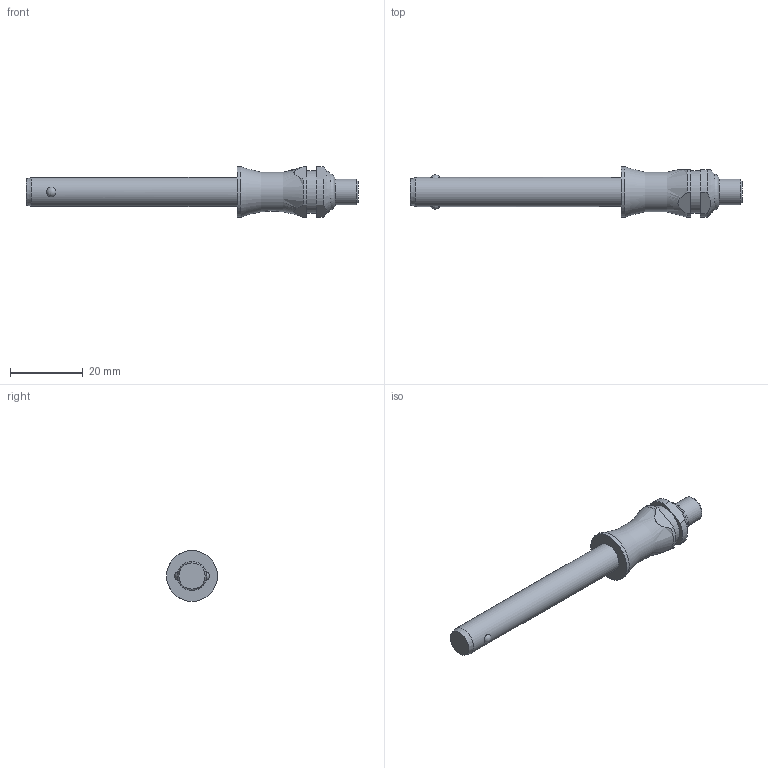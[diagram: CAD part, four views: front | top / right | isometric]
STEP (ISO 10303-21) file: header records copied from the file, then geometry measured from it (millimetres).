
FILE_DESCRIPTION( ( 'STEP AP203' ), '1' );
FILE_NAME( 'C:/Temp/Ganter_Step_05_03_2020/data/3_1/gn113_3/Stainless Steel-Ball lock pin GN 113.3-8-50 (deactivated).stp', '2020-03-12T08:18:26', ( 'License CC BY-ND 4.0' ), ( 'CADENAS' ), ' ', 'PARTsolutions', ' ' );
FILE_SCHEMA( ( 'CONFIG_CONTROL_DESIGN' ) );
Length unit declared in the file: millimetre
Products named in the file (1): _Stainless Steel-Ball lock pin GN 113.3-8-50 (deactivated)
Bounding box: 91.5 x 14 x 14 mm (x, y, z)
Volume: 6145.2 mm3; surface area: 2920 mm2
Topology: 1 solids, 1 shells, 28 faces, 60 edges, 39 vertices
Faces by surface type: plane 11, cylinder 10, cone 3, torus 2, sphere 2
Full cylindrical faces by diameter (mm): 7 x1, 8 x1, 11.6 x1, 14 x1
Entity records: 916 total; most frequent: CARTESIAN_POINT 303, DIRECTION 122, ORIENTED_EDGE 98, AXIS2_PLACEMENT_3D 52, EDGE_CURVE 49, EDGE_LOOP 42, VERTEX_POINT 37, FACE_OUTER_BOUND 34
